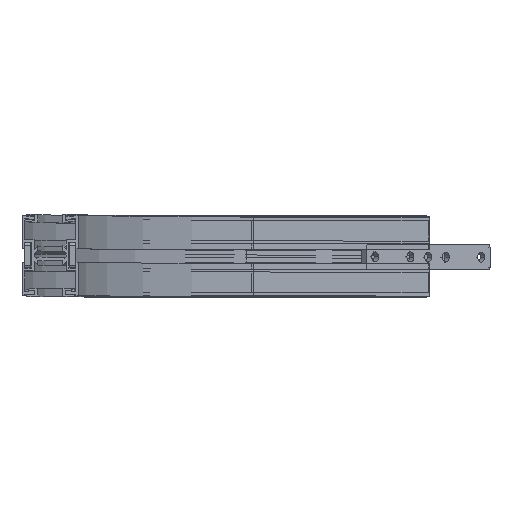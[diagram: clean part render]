
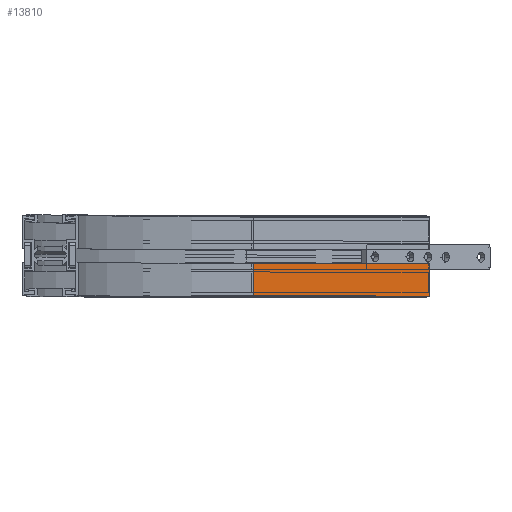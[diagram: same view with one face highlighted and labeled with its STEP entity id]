
A CAD part, top view. The second image highlights one B-rep face of the part: STEP entity #13810.
In plain terms, the highlighted planar face has unit normal (0.707, 0, 0.707).
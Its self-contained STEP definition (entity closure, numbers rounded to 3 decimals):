
#968 = EDGE_LOOP ( 'NONE', ( #13529, #13531, #7879, #13532 ) ) ;
#3538 = PLANE ( 'NONE',  #7243 ) ;
#3540 = CARTESIAN_POINT ( 'NONE',  ( 162.357, -32., -537.643 ) ) ;
#3544 = FACE_OUTER_BOUND ( 'NONE', #968, .T. ) ;
#3546 = DIRECTION ( 'NONE',  ( -0.707, 0., -0.707 ) ) ;
#3547 = DIRECTION ( 'NONE',  ( -0.707, 0., 0.707 ) ) ;
#3549 = CARTESIAN_POINT ( 'NONE',  ( 162.357, -32., -537.643 ) ) ;
#3552 = LINE ( 'NONE', #3549, #7145 ) ;
#3553 = LINE ( 'NONE', #3560, #7150 ) ;
#3559 = DIRECTION ( 'NONE',  ( 0.707, 0., -0.707 ) ) ;
#3560 = CARTESIAN_POINT ( 'NONE',  ( 162.357, -32., -537.643 ) ) ;
#3561 = DIRECTION ( 'NONE',  ( 0., 1., 0. ) ) ;
#3566 = LINE ( 'NONE', #3578, #7253 ) ;
#3578 = CARTESIAN_POINT ( 'NONE',  ( 162.357, -5.5, -537.643 ) ) ;
#3580 = DIRECTION ( 'NONE',  ( 0.707, 0., -0.707 ) ) ;
#3596 = LINE ( 'NONE', #3611, #7276 ) ;
#3611 = CARTESIAN_POINT ( 'NONE',  ( 303.778, -32., -679.065 ) ) ;
#3612 = DIRECTION ( 'NONE',  ( 0., 1., 0. ) ) ;
#7145 = VECTOR ( 'NONE', #3559, 1000. ) ;
#7150 = VECTOR ( 'NONE', #3561, 1000. ) ;
#7243 = AXIS2_PLACEMENT_3D ( 'NONE', #3540, #3546, #3547 ) ;
#7253 = VECTOR ( 'NONE', #3580, 1000. ) ;
#7276 = VECTOR ( 'NONE', #3612, 1000. ) ;
#7879 = ORIENTED_EDGE ( 'NONE', *, *, #13831, .T. ) ;
#9284 = VERTEX_POINT ( 'NONE', #11068 ) ;
#9326 = VERTEX_POINT ( 'NONE', #11091 ) ;
#11068 = CARTESIAN_POINT ( 'NONE',  ( 162.357, -32., -537.643 ) ) ;
#11091 = CARTESIAN_POINT ( 'NONE',  ( 303.778, -5.5, -679.065 ) ) ;
#12333 = CARTESIAN_POINT ( 'NONE',  ( 303.778, -32., -679.065 ) ) ;
#12348 = CARTESIAN_POINT ( 'NONE',  ( 162.357, -5.5, -537.643 ) ) ;
#13529 = ORIENTED_EDGE ( 'NONE', *, *, #13814, .F. ) ;
#13531 = ORIENTED_EDGE ( 'NONE', *, *, #13813, .T. ) ;
#13532 = ORIENTED_EDGE ( 'NONE', *, *, #13820, .F. ) ;
#13570 = VERTEX_POINT ( 'NONE', #12333 ) ;
#13596 = VERTEX_POINT ( 'NONE', #12348 ) ;
#13810 = ADVANCED_FACE ( 'NONE', ( #3544 ), #3538, .F. ) ;
#13813 = EDGE_CURVE ( 'NONE', #9284, #13570, #3552, .T. ) ;
#13814 = EDGE_CURVE ( 'NONE', #9284, #13596, #3553, .T. ) ;
#13820 = EDGE_CURVE ( 'NONE', #13596, #9326, #3566, .T. ) ;
#13831 = EDGE_CURVE ( 'NONE', #13570, #9326, #3596, .T. ) ;
